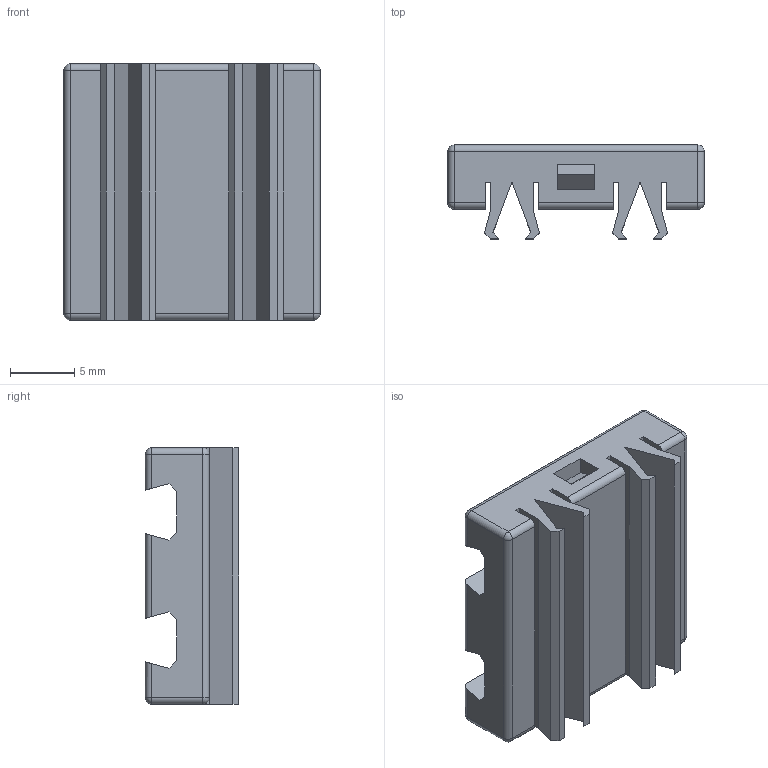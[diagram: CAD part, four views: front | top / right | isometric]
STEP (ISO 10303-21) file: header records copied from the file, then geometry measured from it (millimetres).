
FILE_DESCRIPTION(/* description */ (''),/* implementation_level */ '2;1');
FILE_NAME(/* name */ 'C:/Users/priba/Downloads/Brick2x2x0.5Cross.step',/* time_stamp */ '2022-04-03T10:48:12+02:00',/* author */ (''),/* organization */ (''),/* preprocessor_version */ 'ST-DEVELOPER v18.1',/* originating_system */ 'Autodesk Translation Framework v10.13.0.1454',/* authorisation */ '');
FILE_SCHEMA (('AUTOMOTIVE_DESIGN { 1 0 10303 214 3 1 1 }'));
Length unit declared in the file: millimetre
Products named in the file (1): Brick2x2x0.5Cross
Bounding box: 20 x 7.31 x 20 mm (x, y, z)
Volume: 1583.9 mm3; surface area: 2268.4 mm2
Topology: 1 solids, 3 shells, 101 faces, 258 edges, 164 vertices
Faces by surface type: plane 73, cylinder 20, sphere 8
Entity records: 3018 total; most frequent: CARTESIAN_POINT 524, ORIENTED_EDGE 516, DIRECTION 502, EDGE_CURVE 258, LINE 218, VECTOR 218, VERTEX_POINT 164, AXIS2_PLACEMENT_3D 142
